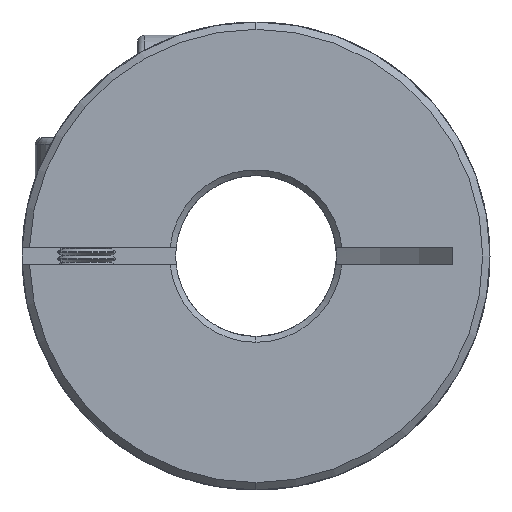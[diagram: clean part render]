
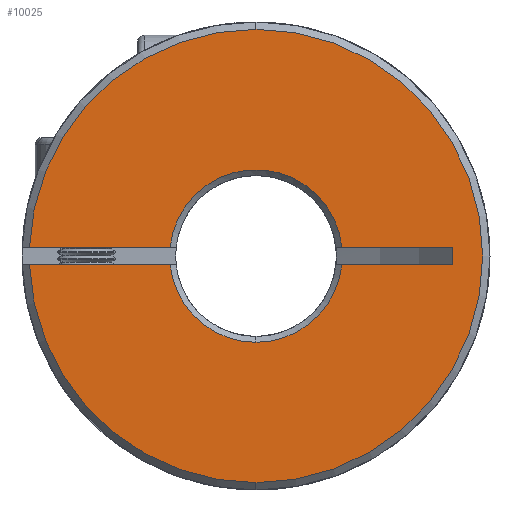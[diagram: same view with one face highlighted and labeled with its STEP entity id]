
A CAD part, front view. The second image highlights one B-rep face of the part: STEP entity #10025.
In plain terms, the highlighted planar face has unit normal (0, -1, 0).
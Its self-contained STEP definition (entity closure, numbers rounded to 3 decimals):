
#3 = AXIS2_PLACEMENT_3D ( 'NONE', #8258, #5786, #10113 ) ;
#318 = DIRECTION ( 'NONE',  ( 0., 1., 0. ) ) ;
#423 = CARTESIAN_POINT ( 'NONE',  ( -50., 0., -18.413 ) ) ;
#588 = AXIS2_PLACEMENT_3D ( 'NONE', #1571, #1766, #6143 ) ;
#594 = VERTEX_POINT ( 'NONE', #7832 ) ;
#625 = DIRECTION ( 'NONE',  ( 0., 0., 1. ) ) ;
#719 = ORIENTED_EDGE ( 'NONE', *, *, #4631, .T. ) ;
#796 = CIRCLE ( 'NONE', #7485, 5.9 ) ;
#799 = CARTESIAN_POINT ( 'NONE',  ( 0., 0., -5.9 ) ) ;
#819 = CARTESIAN_POINT ( 'NONE',  ( 0., 0., 0. ) ) ;
#1042 = ORIENTED_EDGE ( 'NONE', *, *, #5304, .T. ) ;
#1194 = EDGE_LOOP ( 'NONE', ( #6791, #719, #8470, #10829, #5998, #10559, #4031, #4843, #3679, #1042, #5777 ) ) ;
#1206 = CIRCLE ( 'NONE', #588, 5.9 ) ;
#1413 = VERTEX_POINT ( 'NONE', #799 ) ;
#1438 = EDGE_CURVE ( 'NONE', #1413, #6402, #1206, .T. ) ;
#1571 = CARTESIAN_POINT ( 'NONE',  ( 0., 0., 0. ) ) ;
#1679 = CARTESIAN_POINT ( 'NONE',  ( 13.436, 0., -0.6 ) ) ;
#1757 = VERTEX_POINT ( 'NONE', #11140 ) ;
#1766 = DIRECTION ( 'NONE',  ( 0., 1., 0. ) ) ;
#1784 = CARTESIAN_POINT ( 'NONE',  ( 5.869, 0., 0.6 ) ) ;
#1980 = CARTESIAN_POINT ( 'NONE',  ( -5.869, 0., 0.6 ) ) ;
#2069 = VERTEX_POINT ( 'NONE', #9053 ) ;
#2410 = VECTOR ( 'NONE', #5890, 1000. ) ;
#2829 = LINE ( 'NONE', #10142, #9437 ) ;
#2945 = DIRECTION ( 'NONE',  ( 1., 0., 0. ) ) ;
#3174 = CARTESIAN_POINT ( 'NONE',  ( 0., 0., 0. ) ) ;
#3679 = ORIENTED_EDGE ( 'NONE', *, *, #9761, .F. ) ;
#3736 = EDGE_CURVE ( 'NONE', #4407, #4873, #796, .T. ) ;
#3965 = CIRCLE ( 'NONE', #6472, 5.9 ) ;
#3981 = EDGE_CURVE ( 'NONE', #6681, #6402, #9952, .T. ) ;
#4031 = ORIENTED_EDGE ( 'NONE', *, *, #7757, .T. ) ;
#4107 = EDGE_CURVE ( 'NONE', #5351, #6226, #11176, .T. ) ;
#4169 = LINE ( 'NONE', #9207, #2410 ) ;
#4281 = DIRECTION ( 'NONE',  ( 0., 0., -1. ) ) ;
#4385 = CARTESIAN_POINT ( 'NONE',  ( -50., 0., 0.6 ) ) ;
#4407 = VERTEX_POINT ( 'NONE', #1980 ) ;
#4563 = VECTOR ( 'NONE', #4281, 1000. ) ;
#4631 = EDGE_CURVE ( 'NONE', #6681, #9835, #10634, .T. ) ;
#4682 = EDGE_CURVE ( 'NONE', #1757, #2069, #5640, .T. ) ;
#4843 = ORIENTED_EDGE ( 'NONE', *, *, #4107, .T. ) ;
#4873 = VERTEX_POINT ( 'NONE', #1784 ) ;
#4986 = DIRECTION ( 'NONE',  ( 0., 0., 1. ) ) ;
#5304 = EDGE_CURVE ( 'NONE', #594, #1413, #3965, .T. ) ;
#5351 = VERTEX_POINT ( 'NONE', #5381 ) ;
#5381 = CARTESIAN_POINT ( 'NONE',  ( 13.436, 0., 0.6 ) ) ;
#5420 = DIRECTION ( 'NONE',  ( 1., 0., 0. ) ) ;
#5460 = LINE ( 'NONE', #4385, #10572 ) ;
#5486 = DIRECTION ( 'NONE',  ( 0., 1., 0. ) ) ;
#5521 = DIRECTION ( 'NONE',  ( 0., 0., 1. ) ) ;
#5640 = CIRCLE ( 'NONE', #3, 15.5 ) ;
#5752 = EDGE_CURVE ( 'NONE', #9835, #1757, #10322, .T. ) ;
#5777 = ORIENTED_EDGE ( 'NONE', *, *, #1438, .T. ) ;
#5784 = DIRECTION ( 'NONE',  ( 0., 1., 0. ) ) ;
#5786 = DIRECTION ( 'NONE',  ( 0., -1., 0. ) ) ;
#5856 = DIRECTION ( 'NONE',  ( 1., 0., 0. ) ) ;
#5890 = DIRECTION ( 'NONE',  ( 1., 0., 0. ) ) ;
#5918 = VECTOR ( 'NONE', #2945, 1000. ) ;
#5998 = ORIENTED_EDGE ( 'NONE', *, *, #9716, .T. ) ;
#6143 = DIRECTION ( 'NONE',  ( 0., 0., 1. ) ) ;
#6226 = VERTEX_POINT ( 'NONE', #8499 ) ;
#6372 = DIRECTION ( 'NONE',  ( 0., 0., 1. ) ) ;
#6402 = VERTEX_POINT ( 'NONE', #8412 ) ;
#6472 = AXIS2_PLACEMENT_3D ( 'NONE', #10558, #5486, #5521 ) ;
#6564 = AXIS2_PLACEMENT_3D ( 'NONE', #819, #11036, #4986 ) ;
#6681 = VERTEX_POINT ( 'NONE', #10663 ) ;
#6791 = ORIENTED_EDGE ( 'NONE', *, *, #3981, .F. ) ;
#7261 = CARTESIAN_POINT ( 'NONE',  ( -50., 0., -0.6 ) ) ;
#7278 = FACE_OUTER_BOUND ( 'NONE', #1194, .T. ) ;
#7485 = AXIS2_PLACEMENT_3D ( 'NONE', #10954, #5784, #625 ) ;
#7757 = EDGE_CURVE ( 'NONE', #4873, #5351, #5460, .T. ) ;
#7832 = CARTESIAN_POINT ( 'NONE',  ( 5.869, 0., -0.6 ) ) ;
#8258 = CARTESIAN_POINT ( 'NONE',  ( 0., 0., 0. ) ) ;
#8412 = CARTESIAN_POINT ( 'NONE',  ( -5.869, 0., -0.6 ) ) ;
#8470 = ORIENTED_EDGE ( 'NONE', *, *, #5752, .T. ) ;
#8499 = CARTESIAN_POINT ( 'NONE',  ( 13.436, 0., -0.6 ) ) ;
#9053 = CARTESIAN_POINT ( 'NONE',  ( -15.488, 0., 0.6 ) ) ;
#9207 = CARTESIAN_POINT ( 'NONE',  ( -50., 0., -0.6 ) ) ;
#9354 = CARTESIAN_POINT ( 'NONE',  ( 0., 0., -15.5 ) ) ;
#9437 = VECTOR ( 'NONE', #5856, 1000. ) ;
#9680 = AXIS2_PLACEMENT_3D ( 'NONE', #3174, #10841, #9998 ) ;
#9702 = PLANE ( 'NONE',  #11027 ) ;
#9716 = EDGE_CURVE ( 'NONE', #2069, #4407, #2829, .T. ) ;
#9761 = EDGE_CURVE ( 'NONE', #594, #6226, #4169, .T. ) ;
#9835 = VERTEX_POINT ( 'NONE', #9354 ) ;
#9952 = LINE ( 'NONE', #7261, #5918 ) ;
#9998 = DIRECTION ( 'NONE',  ( 0., 0., 1. ) ) ;
#10025 = ADVANCED_FACE ( 'NONE', ( #7278 ), #9702, .F. ) ;
#10113 = DIRECTION ( 'NONE',  ( 0., 0., 1. ) ) ;
#10142 = CARTESIAN_POINT ( 'NONE',  ( -50., 0., 0.6 ) ) ;
#10322 = CIRCLE ( 'NONE', #6564, 15.5 ) ;
#10558 = CARTESIAN_POINT ( 'NONE',  ( 0., 0., 0. ) ) ;
#10559 = ORIENTED_EDGE ( 'NONE', *, *, #3736, .T. ) ;
#10572 = VECTOR ( 'NONE', #5420, 1000. ) ;
#10634 = CIRCLE ( 'NONE', #9680, 15.5 ) ;
#10663 = CARTESIAN_POINT ( 'NONE',  ( -15.488, 0., -0.6 ) ) ;
#10829 = ORIENTED_EDGE ( 'NONE', *, *, #4682, .T. ) ;
#10841 = DIRECTION ( 'NONE',  ( 0., -1., 0. ) ) ;
#10954 = CARTESIAN_POINT ( 'NONE',  ( 0., 0., 0. ) ) ;
#11027 = AXIS2_PLACEMENT_3D ( 'NONE', #423, #318, #6372 ) ;
#11036 = DIRECTION ( 'NONE',  ( 0., -1., 0. ) ) ;
#11140 = CARTESIAN_POINT ( 'NONE',  ( 0., 0., 15.5 ) ) ;
#11176 = LINE ( 'NONE', #1679, #4563 ) ;
